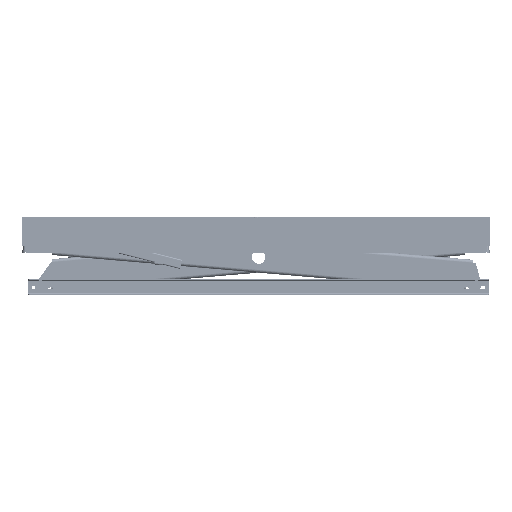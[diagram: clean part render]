
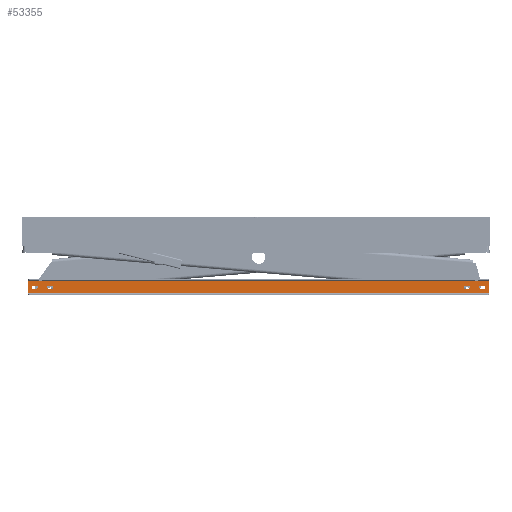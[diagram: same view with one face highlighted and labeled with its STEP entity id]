
A CAD part, left-side view. The second image highlights one B-rep face of the part: STEP entity #53355.
In plain terms, the highlighted planar face has unit normal (-1, 0, 0) as drawn and (0, 0, -1) by its records, which use the part's own axes.
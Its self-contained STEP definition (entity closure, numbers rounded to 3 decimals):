
#1563=FACE_BOUND('',#6838,.T.);
#1564=FACE_BOUND('',#6839,.T.);
#1565=FACE_BOUND('',#6840,.T.);
#1566=FACE_BOUND('',#6841,.T.);
#2096=PLANE('',#56998);
#3838=FACE_OUTER_BOUND('',#6837,.T.);
#6837=EDGE_LOOP('',(#37181,#37182,#37183,#37184));
#6838=EDGE_LOOP('',(#37185,#37186,#37187,#37188));
#6839=EDGE_LOOP('',(#37189,#37190,#37191,#37192));
#6840=EDGE_LOOP('',(#37193,#37194,#37195,#37196));
#6841=EDGE_LOOP('',(#37197,#37198,#37199,#37200));
#10346=LINE('',#78603,#15658);
#10350=LINE('',#78614,#15662);
#10354=LINE('',#78627,#15666);
#10358=LINE('',#78638,#15670);
#10362=LINE('',#78651,#15674);
#10366=LINE('',#78662,#15678);
#10370=LINE('',#78675,#15682);
#10374=LINE('',#78686,#15686);
#10377=LINE('',#78698,#15689);
#10382=LINE('',#78716,#15694);
#10383=LINE('',#78719,#15695);
#10386=LINE('',#78724,#15698);
#15658=VECTOR('',#62743,10.);
#15662=VECTOR('',#62755,10.);
#15666=VECTOR('',#62767,10.);
#15670=VECTOR('',#62779,10.);
#15674=VECTOR('',#62791,10.);
#15678=VECTOR('',#62803,10.);
#15682=VECTOR('',#62815,10.);
#15686=VECTOR('',#62827,10.);
#15689=VECTOR('',#62840,10.);
#15694=VECTOR('',#62859,10.);
#15695=VECTOR('',#62864,10.);
#15698=VECTOR('',#62871,10.);
#20835=CIRCLE('',#56951,10.5);
#20837=CIRCLE('',#56955,10.5);
#20839=CIRCLE('',#56959,10.5);
#20841=CIRCLE('',#56963,10.5);
#20843=CIRCLE('',#56967,10.5);
#20845=CIRCLE('',#56971,10.5);
#20847=CIRCLE('',#56975,10.5);
#20849=CIRCLE('',#56979,10.5);
#23182=VERTEX_POINT('',#78593);
#23183=VERTEX_POINT('',#78594);
#23186=VERTEX_POINT('',#78602);
#23188=VERTEX_POINT('',#78608);
#23190=VERTEX_POINT('',#78617);
#23191=VERTEX_POINT('',#78618);
#23194=VERTEX_POINT('',#78626);
#23196=VERTEX_POINT('',#78632);
#23198=VERTEX_POINT('',#78641);
#23199=VERTEX_POINT('',#78642);
#23202=VERTEX_POINT('',#78650);
#23204=VERTEX_POINT('',#78656);
#23206=VERTEX_POINT('',#78665);
#23207=VERTEX_POINT('',#78666);
#23210=VERTEX_POINT('',#78674);
#23212=VERTEX_POINT('',#78680);
#23216=VERTEX_POINT('',#78695);
#23217=VERTEX_POINT('',#78697);
#23222=VERTEX_POINT('',#78713);
#23223=VERTEX_POINT('',#78715);
#28661=EDGE_CURVE('',#23182,#23183,#20835,.T.);
#28665=EDGE_CURVE('',#23186,#23182,#10346,.T.);
#28668=EDGE_CURVE('',#23188,#23186,#20837,.T.);
#28671=EDGE_CURVE('',#23183,#23188,#10350,.T.);
#28673=EDGE_CURVE('',#23190,#23191,#20839,.T.);
#28677=EDGE_CURVE('',#23194,#23190,#10354,.T.);
#28680=EDGE_CURVE('',#23196,#23194,#20841,.T.);
#28683=EDGE_CURVE('',#23191,#23196,#10358,.T.);
#28685=EDGE_CURVE('',#23198,#23199,#20843,.T.);
#28689=EDGE_CURVE('',#23199,#23202,#10362,.T.);
#28692=EDGE_CURVE('',#23202,#23204,#20845,.T.);
#28695=EDGE_CURVE('',#23204,#23198,#10366,.T.);
#28697=EDGE_CURVE('',#23206,#23207,#20847,.T.);
#28701=EDGE_CURVE('',#23207,#23210,#10370,.T.);
#28704=EDGE_CURVE('',#23210,#23212,#20849,.T.);
#28707=EDGE_CURVE('',#23212,#23206,#10374,.T.);
#28713=EDGE_CURVE('',#23217,#23216,#10377,.T.);
#28722=EDGE_CURVE('',#23223,#23222,#10382,.T.);
#28724=EDGE_CURVE('',#23222,#23217,#10383,.T.);
#28727=EDGE_CURVE('',#23216,#23223,#10386,.T.);
#37181=ORIENTED_EDGE('',*,*,#28722,.T.);
#37182=ORIENTED_EDGE('',*,*,#28724,.T.);
#37183=ORIENTED_EDGE('',*,*,#28713,.T.);
#37184=ORIENTED_EDGE('',*,*,#28727,.T.);
#37185=ORIENTED_EDGE('',*,*,#28661,.T.);
#37186=ORIENTED_EDGE('',*,*,#28671,.T.);
#37187=ORIENTED_EDGE('',*,*,#28668,.T.);
#37188=ORIENTED_EDGE('',*,*,#28665,.T.);
#37189=ORIENTED_EDGE('',*,*,#28673,.T.);
#37190=ORIENTED_EDGE('',*,*,#28683,.T.);
#37191=ORIENTED_EDGE('',*,*,#28680,.T.);
#37192=ORIENTED_EDGE('',*,*,#28677,.T.);
#37193=ORIENTED_EDGE('',*,*,#28685,.T.);
#37194=ORIENTED_EDGE('',*,*,#28689,.T.);
#37195=ORIENTED_EDGE('',*,*,#28692,.T.);
#37196=ORIENTED_EDGE('',*,*,#28695,.T.);
#37197=ORIENTED_EDGE('',*,*,#28697,.T.);
#37198=ORIENTED_EDGE('',*,*,#28701,.T.);
#37199=ORIENTED_EDGE('',*,*,#28704,.T.);
#37200=ORIENTED_EDGE('',*,*,#28707,.T.);
#53355=ADVANCED_FACE('',(#3838,#1563,#1564,#1565,#1566),#2096,.F.);
#56951=AXIS2_PLACEMENT_3D('',#78595,#62735,#62736);
#56955=AXIS2_PLACEMENT_3D('',#78609,#62748,#62749);
#56959=AXIS2_PLACEMENT_3D('',#78619,#62759,#62760);
#56963=AXIS2_PLACEMENT_3D('',#78633,#62772,#62773);
#56967=AXIS2_PLACEMENT_3D('',#78643,#62783,#62784);
#56971=AXIS2_PLACEMENT_3D('',#78657,#62796,#62797);
#56975=AXIS2_PLACEMENT_3D('',#78667,#62807,#62808);
#56979=AXIS2_PLACEMENT_3D('',#78681,#62820,#62821);
#56998=AXIS2_PLACEMENT_3D('',#78725,#62872,#62873);
#62735=DIRECTION('center_axis',(0.,0.,1.));
#62736=DIRECTION('ref_axis',(0.,-1.,0.));
#62743=DIRECTION('',(1.,0.,0.));
#62748=DIRECTION('center_axis',(0.,0.,1.));
#62749=DIRECTION('ref_axis',(0.,1.,0.));
#62755=DIRECTION('',(-1.,0.,0.));
#62759=DIRECTION('center_axis',(0.,0.,1.));
#62760=DIRECTION('ref_axis',(0.,1.,0.));
#62767=DIRECTION('',(1.,0.,0.));
#62772=DIRECTION('center_axis',(0.,0.,1.));
#62773=DIRECTION('ref_axis',(0.,-1.,0.));
#62779=DIRECTION('',(-1.,0.,0.));
#62783=DIRECTION('center_axis',(0.,0.,1.));
#62784=DIRECTION('ref_axis',(0.,-1.,0.));
#62791=DIRECTION('',(1.,0.,0.));
#62796=DIRECTION('center_axis',(0.,0.,1.));
#62797=DIRECTION('ref_axis',(0.,1.,0.));
#62803=DIRECTION('',(-1.,0.,0.));
#62807=DIRECTION('center_axis',(0.,0.,1.));
#62808=DIRECTION('ref_axis',(0.,1.,0.));
#62815=DIRECTION('',(1.,0.,0.));
#62820=DIRECTION('center_axis',(0.,0.,1.));
#62821=DIRECTION('ref_axis',(0.,-1.,0.));
#62827=DIRECTION('',(-1.,0.,0.));
#62840=DIRECTION('',(-1.,0.,0.));
#62859=DIRECTION('',(1.,0.,0.));
#62864=DIRECTION('',(0.,-1.,0.));
#62871=DIRECTION('',(0.,1.,0.));
#62872=DIRECTION('center_axis',(0.,0.,1.));
#62873=DIRECTION('ref_axis',(1.,0.,0.));
#78593=CARTESIAN_POINT('',(-1424.7,-10.5,0.));
#78594=CARTESIAN_POINT('',(-1424.7,10.5,0.));
#78595=CARTESIAN_POINT('Origin',(-1424.7,0.,0.));
#78602=CARTESIAN_POINT('',(-1444.7,-10.5,0.));
#78603=CARTESIAN_POINT('',(-712.35,-10.5,0.));
#78608=CARTESIAN_POINT('',(-1444.7,10.5,0.));
#78609=CARTESIAN_POINT('Origin',(-1444.7,0.,0.));
#78614=CARTESIAN_POINT('',(-722.35,10.5,0.));
#78617=CARTESIAN_POINT('',(-1324.7,-10.5,0.));
#78618=CARTESIAN_POINT('',(-1324.7,10.5,0.));
#78619=CARTESIAN_POINT('Origin',(-1324.7,0.,0.));
#78626=CARTESIAN_POINT('',(-1344.7,-10.5,0.));
#78627=CARTESIAN_POINT('',(-662.35,-10.5,0.));
#78632=CARTESIAN_POINT('',(-1344.7,10.5,0.));
#78633=CARTESIAN_POINT('Origin',(-1344.7,0.,0.));
#78638=CARTESIAN_POINT('',(-672.35,10.5,0.));
#78641=CARTESIAN_POINT('',(1424.7,10.5,0.));
#78642=CARTESIAN_POINT('',(1424.7,-10.5,0.));
#78643=CARTESIAN_POINT('Origin',(1424.7,0.,0.));
#78650=CARTESIAN_POINT('',(1444.7,-10.5,0.));
#78651=CARTESIAN_POINT('',(712.35,-10.5,0.));
#78656=CARTESIAN_POINT('',(1444.7,10.5,0.));
#78657=CARTESIAN_POINT('Origin',(1444.7,0.,0.));
#78662=CARTESIAN_POINT('',(722.35,10.5,0.));
#78665=CARTESIAN_POINT('',(1324.7,10.5,0.));
#78666=CARTESIAN_POINT('',(1324.7,-10.5,0.));
#78667=CARTESIAN_POINT('Origin',(1324.7,0.,0.));
#78674=CARTESIAN_POINT('',(1344.7,-10.5,0.));
#78675=CARTESIAN_POINT('',(662.35,-10.5,0.));
#78680=CARTESIAN_POINT('',(1344.7,10.5,0.));
#78681=CARTESIAN_POINT('Origin',(1344.7,0.,0.));
#78686=CARTESIAN_POINT('',(672.35,10.5,0.));
#78695=CARTESIAN_POINT('',(-1475.,-38.,0.));
#78697=CARTESIAN_POINT('',(1475.,-38.,0.));
#78698=CARTESIAN_POINT('',(-737.5,-38.,0.));
#78713=CARTESIAN_POINT('',(1475.,38.,0.));
#78715=CARTESIAN_POINT('',(-1475.,38.,0.));
#78716=CARTESIAN_POINT('',(737.5,38.,0.));
#78719=CARTESIAN_POINT('',(1475.,50.,0.));
#78724=CARTESIAN_POINT('',(-1475.,-50.,0.));
#78725=CARTESIAN_POINT('Origin',(0.,0.,0.));
